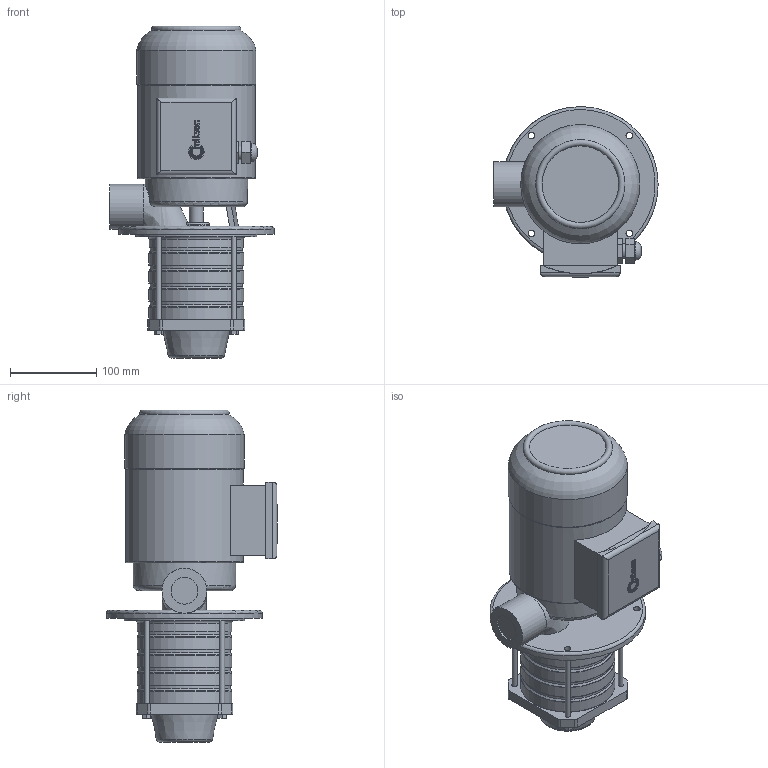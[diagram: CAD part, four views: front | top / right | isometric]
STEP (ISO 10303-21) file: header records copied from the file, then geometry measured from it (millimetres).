
FILE_DESCRIPTION(/* description */ ('Unknown'),/* implementation_level */ '2;1');
FILE_NAME(/* name */ 'hda03',/* time_stamp */ '2025-06-17T14:57:38+03:00',/* author */ ('Unknown'),/* organization */ ('Unknown'),/* preprocessor_version */ 'ST-DEVELOPER v16.7',/* originating_system */ 'DEX',/* authorisation */ $);
FILE_SCHEMA (('AUTOMOTIVE_DESIGN {1 0 10303 214 3 1 1}'));
Length unit declared in the file: millimetre
Products named in the file (1): hda03
Bounding box: 190 x 197.5 x 384.06 mm (x, y, z)
Volume: 4780927 mm3; surface area: 255652.6 mm2
Topology: 1 solids, 1 shells, 248 faces, 622 edges, 409 vertices
Faces by surface type: plane 108, bspline 67, cylinder 49, torus 18, cone 6
Full cylindrical faces by diameter (mm): 6 x4, 7.5 x4, 16.3 x1, 17 x1, 21.5 x1, 31 x1, 52 x1, 106.5 x4, 109.25 x1, 109.6 x4, 118.6 x1, 136.186 x1, 137.994 x1, 139.6 x1, 180 x1
Entity records: 9558 total; most frequent: CARTESIAN_POINT 4217, ORIENTED_EDGE 1120, DIRECTION 890, EDGE_CURVE 560, VERTEX_POINT 395, EDGE_LOOP 349, FACE_BOUND 349, AXIS2_PLACEMENT_3D 301
